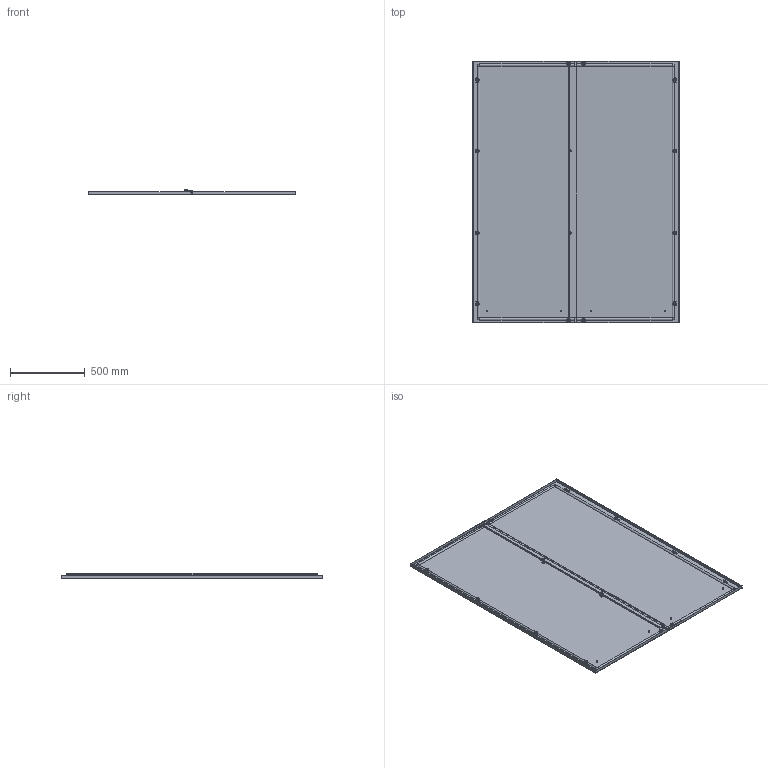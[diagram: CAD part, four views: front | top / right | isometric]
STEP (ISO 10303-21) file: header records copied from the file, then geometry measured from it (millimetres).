
FILE_DESCRIPTION(('Open CASCADE Model'),'2;1');
FILE_NAME('Open CASCADE Shape Model','2025-02-10T17:36:36',('Author'),( 'Open CASCADE'),'Open CASCADE STEP processor 7.8','Open CASCADE 7.8' ,'Unknown');
FILE_SCHEMA(('AUTOMOTIVE_DESIGN { 1 0 10303 214 1 1 1 1 }'));
Length unit declared in the file: millimetre
Products named in the file (19): Compound1; Compound2; Compound3; Solid1; Solid2; Solid3; Compound4; Compound5; Solid4; Compound6; Solid5; Solid6; Solid7; Solid8; Solid9; Solid10; Solid11; Solid12; Solid13
Assembly tree (67 placements, depth 4):
  Compound1
    Compound2
      Compound3
        Solid1
        Solid2  x3
      Solid3
    Compound4
      Compound5
        Solid4
        Solid2  x3
      Solid3
    Compound6  x2
      Solid5
      Solid6
    Solid7
    Solid8  x14
    Solid9  x2
    Solid10  x2
    Solid11  x12
    Solid12  x6
    Solid13  x12
Bounding box: 1394 x 1755 x 36.26 mm (x, y, z)
Volume: 4883250.3 mm3; surface area: 5916549.5 mm2
Topology: 63 solids, 63 shells, 1828 faces, 4488 edges, 2810 vertices
Faces by surface type: plane 1351, cylinder 237, cone 164, torus 46, bspline 28, revolution 2
Full cylindrical faces by diameter (mm): 4.92 x14, 5 x26, 6 x36, 6.5 x2, 7.5 x8, 8 x24, 9 x4, 9.1 x2, 10 x16, 11.57 x14
Entity records: 13674 total; most frequent: CARTESIAN_POINT 2779, DIRECTION 2150, ORIENTED_EDGE 2146, EDGE_CURVE 1073, LINE 763, VECTOR 763, AXIS2_PLACEMENT_3D 693, VERTEX_POINT 673
